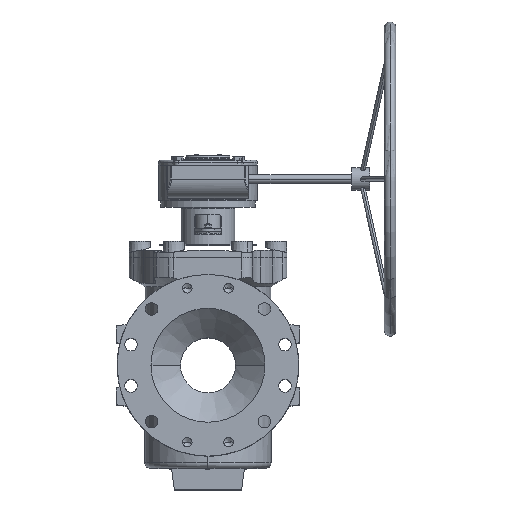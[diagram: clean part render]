
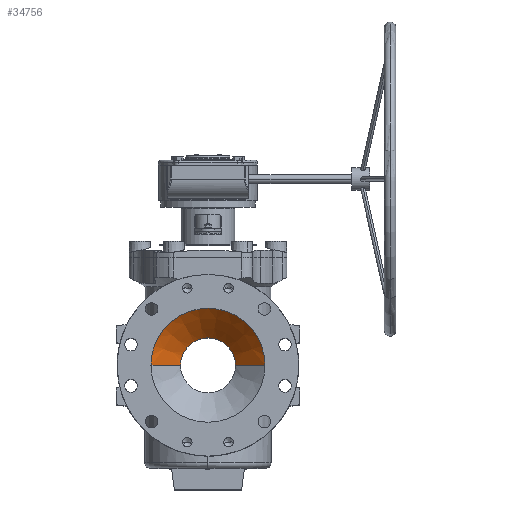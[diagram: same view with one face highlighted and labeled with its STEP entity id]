
A CAD part, top view. The second image highlights one B-rep face of the part: STEP entity #34756.
In plain terms, the highlighted conical face has half-angle 46.695 degrees and reference radius 131.585 mm.
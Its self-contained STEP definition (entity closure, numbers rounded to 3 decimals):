
#258 = DIRECTION ( 'NONE',  ( 1., 0., 0. ) ) ;
#4380 = CARTESIAN_POINT ( 'NONE',  ( 127., 0., 159. ) ) ;
#5817 = CARTESIAN_POINT ( 'NONE',  ( 131.585, 0., 163.322 ) ) ;
#6043 = CARTESIAN_POINT ( 'NONE',  ( 0., 0., 163.322 ) ) ;
#6130 = VECTOR ( 'NONE', #10688, 1000. ) ;
#6846 = CIRCLE ( 'NONE', #8826, 61.218 ) ;
#8826 = AXIS2_PLACEMENT_3D ( 'NONE', #15846, #28761, #22514 ) ;
#9175 = ORIENTED_EDGE ( 'NONE', *, *, #11666, .F. ) ;
#10454 = EDGE_CURVE ( 'NONE', #11899, #29244, #17739, .T. ) ;
#10533 = CARTESIAN_POINT ( 'NONE',  ( 61.218, 0., 97. ) ) ;
#10688 = DIRECTION ( 'NONE',  ( -0.728, 0., 0.686 ) ) ;
#11054 = EDGE_CURVE ( 'NONE', #20442, #38426, #34308, .T. ) ;
#11666 = EDGE_CURVE ( 'Defeatured_0_527+Defeatured_0_528+Defeatured_0_528+Defeatured_0_528', #20442, #11899, #6846, .T. ) ;
#11899 = VERTEX_POINT ( 'NONE', #27030 ) ;
#12774 = VECTOR ( 'NONE', #18504, 1000. ) ;
#15846 = CARTESIAN_POINT ( 'NONE',  ( 0., 0., 97. ) ) ;
#16077 = DIRECTION ( 'NONE',  ( 0., 0., 1. ) ) ;
#17739 = LINE ( 'NONE', #20677, #6130 ) ;
#17933 = EDGE_CURVE ( 'NONE', #38426, #29244, #35317, .T. ) ;
#18504 = DIRECTION ( 'NONE',  ( 0.728, 0., 0.686 ) ) ;
#19206 = CARTESIAN_POINT ( 'NONE',  ( 0., 0., 159. ) ) ;
#20442 = VERTEX_POINT ( 'NONE', #10533 ) ;
#20677 = CARTESIAN_POINT ( 'NONE',  ( -131.585, 0., 163.322 ) ) ;
#22514 = DIRECTION ( 'NONE',  ( 1., 0., 0. ) ) ;
#22708 = AXIS2_PLACEMENT_3D ( 'NONE', #19206, #16077, #258 ) ;
#24725 = ORIENTED_EDGE ( 'NONE', *, *, #11054, .T. ) ;
#26109 = ORIENTED_EDGE ( 'NONE', *, *, #17933, .T. ) ;
#27030 = CARTESIAN_POINT ( 'NONE',  ( -61.218, 0., 97. ) ) ;
#27140 = DIRECTION ( 'NONE',  ( 0., 0., 1. ) ) ;
#27607 = EDGE_LOOP ( 'NONE', ( #30378, #9175, #24725, #26109 ) ) ;
#27679 = AXIS2_PLACEMENT_3D ( 'NONE', #6043, #27140, #30258 ) ;
#28761 = DIRECTION ( 'NONE',  ( 0., 0., 1. ) ) ;
#29244 = VERTEX_POINT ( 'NONE', #39985 ) ;
#30258 = DIRECTION ( 'NONE',  ( 1., 0., 0. ) ) ;
#30378 = ORIENTED_EDGE ( 'NONE', *, *, #10454, .F. ) ;
#33671 = CONICAL_SURFACE ( 'NONE', #27679, 131.585, 0.815 ) ;
#34308 = LINE ( 'NONE', #5817, #12774 ) ;
#34756 = ADVANCED_FACE ( 'Defeatured_0_528', ( #36685 ), #33671, .F. ) ;
#35317 = CIRCLE ( 'NONE', #22708, 127. ) ;
#36685 = FACE_OUTER_BOUND ( 'NONE', #27607, .T. ) ;
#38426 = VERTEX_POINT ( 'NONE', #4380 ) ;
#39985 = CARTESIAN_POINT ( 'NONE',  ( -127., 0., 159. ) ) ;
